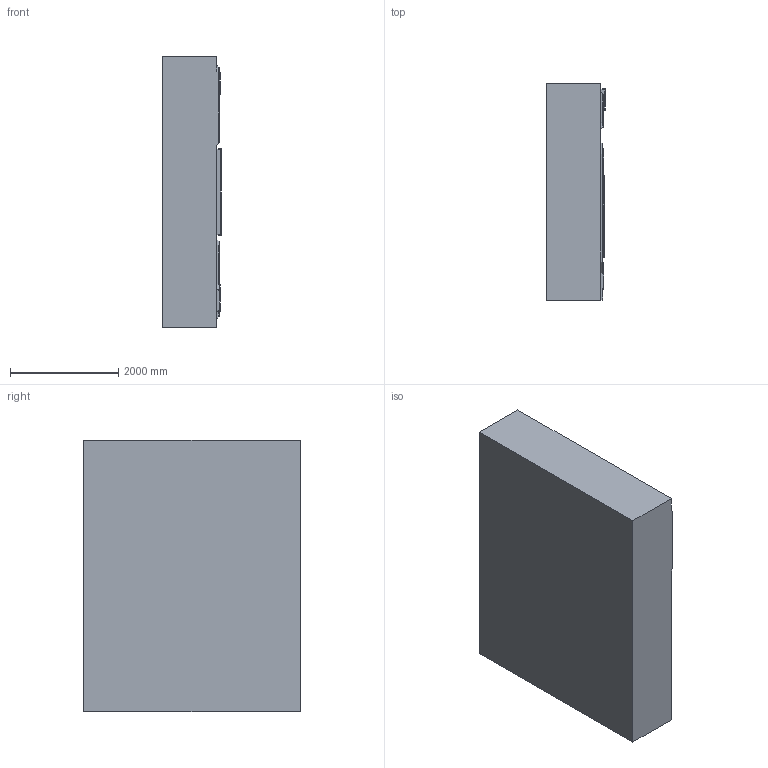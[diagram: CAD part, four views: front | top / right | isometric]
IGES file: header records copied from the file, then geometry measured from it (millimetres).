
Global section: file name: Wall2; native system: unknown; preprocessor: unknown; author: unknown; organization: unknown; date: 20220707.142524; units: centimetre
Bounding box: 1080 x 4000 x 5000 mm (x, y, z)
Volume: 19404357495.8 mm3; surface area: 63328991.4 mm2
Topology: 1 solids, 1 shells, 658 faces, 1613 edges, 975 vertices
Faces by surface type: bspline 658
